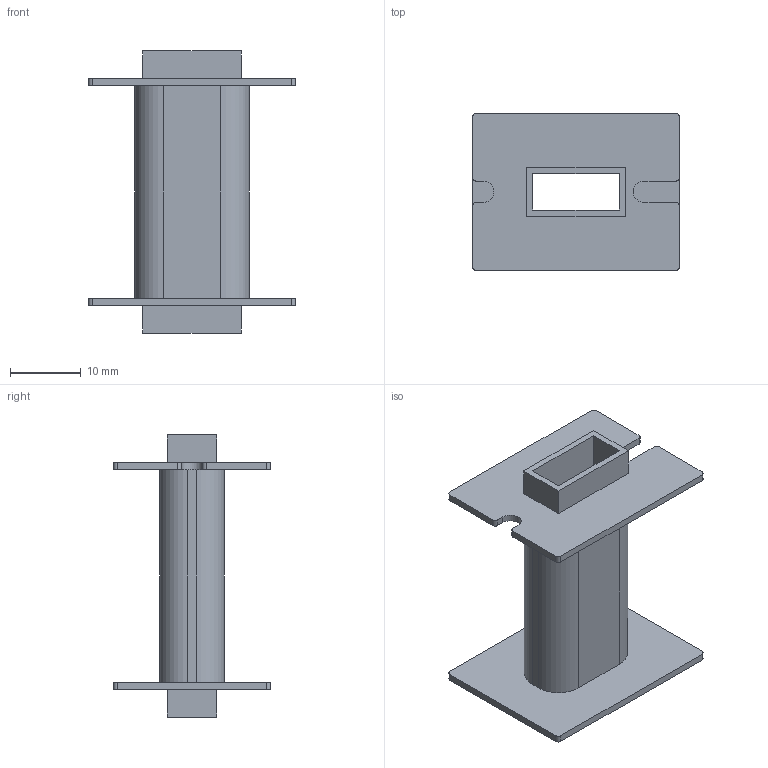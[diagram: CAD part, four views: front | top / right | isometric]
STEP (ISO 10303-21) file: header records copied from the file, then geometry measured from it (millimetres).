
FILE_DESCRIPTION(/* description */ (''),/* implementation_level */ '2;1');
FILE_NAME(/* name */ 'C:\Users\xxnew\Desktop\Dossier Méca usinage ESME\Impression sur lit de poudre\kicker_tube.stp',/* time_stamp */ '2020-10-27T21:10:51+01:00',/* author */ ('xxnew'),/* organization */ (''),/* preprocessor_version */ 'ST-DEVELOPER v17',/* originating_system */ 'Autodesk Inventor 2019',/* authorisation */ '');
FILE_SCHEMA (('AUTOMOTIVE_DESIGN { 1 0 10303 214 3 1 1 }'));
Length unit declared in the file: millimetre
Products named in the file (1): kicker_tube
Bounding box: 29.15 x 22.15 x 39.8 mm (x, y, z)
Volume: 3551.1 mm3; surface area: 5369.2 mm2
Topology: 1 solids, 1 shells, 54 faces, 146 edges, 97 vertices
Faces by surface type: plane 36, cylinder 18
Entity records: 1742 total; most frequent: CARTESIAN_POINT 298, DIRECTION 293, ORIENTED_EDGE 292, EDGE_CURVE 146, LINE 109, VECTOR 109, VERTEX_POINT 97, AXIS2_PLACEMENT_3D 92
